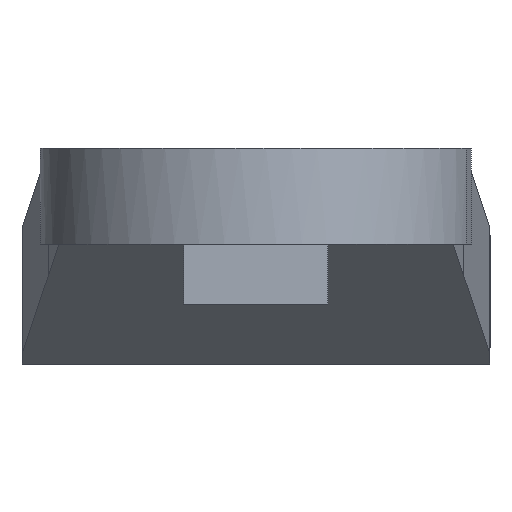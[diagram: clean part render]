
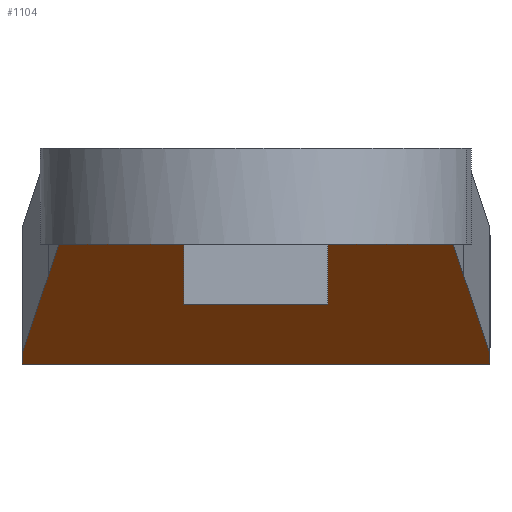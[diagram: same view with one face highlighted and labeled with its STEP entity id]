
A CAD part, left-side view. The second image highlights one B-rep face of the part: STEP entity #1104.
In plain terms, the highlighted planar face has unit normal (-0.494, 0, -0.869).
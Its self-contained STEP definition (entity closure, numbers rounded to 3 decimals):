
#28 = CARTESIAN_POINT ( 'NONE',  ( 13.5, -8.212, 0. ) ) ;
#67 = CARTESIAN_POINT ( 'NONE',  ( 13.5, -8.212, 0. ) ) ;
#81 = CARTESIAN_POINT ( 'NONE',  ( 19.571, -9.379, -3.454 ) ) ;
#99 = ORIENTED_EDGE ( 'NONE', *, *, #169, .T. ) ;
#143 = CARTESIAN_POINT ( 'NONE',  ( 14.237, -8.353, -0.419 ) ) ;
#145 = EDGE_CURVE ( 'NONE', #156, #535, #1023, .T. ) ;
#147 = CARTESIAN_POINT ( 'NONE',  ( 22.025, 9.75, -4.851 ) ) ;
#156 = VERTEX_POINT ( 'NONE', #315 ) ;
#161 = VERTEX_POINT ( 'NONE', #765 ) ;
#167 = CARTESIAN_POINT ( 'NONE',  ( 17.641, -9.008, -2.356 ) ) ;
#169 = EDGE_CURVE ( 'NONE', #161, #874, #406, .T. ) ;
#186 = PLANE ( 'NONE',  #852 ) ;
#225 = VERTEX_POINT ( 'NONE', #333 ) ;
#285 = ORIENTED_EDGE ( 'NONE', *, *, #1127, .T. ) ;
#301 = CARTESIAN_POINT ( 'NONE',  ( 21.763, -9.75, -4.701 ) ) ;
#314 = B_SPLINE_CURVE_WITH_KNOTS ( 'NONE', 3,
 ( #1070, #1156, #436, #799 ),
 .UNSPECIFIED., .F., .F.,
 ( 4, 4 ),
 ( 0., 1. ),
 .UNSPECIFIED. ) ;
#315 = CARTESIAN_POINT ( 'NONE',  ( 13.5, 8.212, 0. ) ) ;
#317 = CARTESIAN_POINT ( 'NONE',  ( 22.025, -9.75, -4.851 ) ) ;
#321 = CARTESIAN_POINT ( 'NONE',  ( 14.237, 8.353, -0.419 ) ) ;
#333 = CARTESIAN_POINT ( 'NONE',  ( 15.712, -8.637, -1.258 ) ) ;
#337 = CARTESIAN_POINT ( 'NONE',  ( 13.5, 8.212, 0. ) ) ;
#363 = ORIENTED_EDGE ( 'NONE', *, *, #537, .T. ) ;
#367 = ORIENTED_EDGE ( 'NONE', *, *, #728, .T. ) ;
#388 = ORIENTED_EDGE ( 'NONE', *, *, #675, .T. ) ;
#403 = B_SPLINE_CURVE_WITH_KNOTS ( 'NONE', 3,
 ( #647, #817, #1103, #932 ),
 .UNSPECIFIED., .F., .F.,
 ( 4, 4 ),
 ( 0., 1. ),
 .UNSPECIFIED. ) ;
#406 = B_SPLINE_CURVE_WITH_KNOTS ( 'NONE', 3,
 ( #1062, #1069, #147, #603 ),
 .UNSPECIFIED., .F., .F.,
 ( 4, 4 ),
 ( 0., 1. ),
 .UNSPECIFIED. ) ;
#436 = CARTESIAN_POINT ( 'NONE',  ( 19.571, 9.379, -3.454 ) ) ;
#440 = CARTESIAN_POINT ( 'NONE',  ( 22.288, 9.75, -5. ) ) ;
#448 = ORIENTED_EDGE ( 'NONE', *, *, #484, .T. ) ;
#449 = DIRECTION ( 'NONE',  ( -0.495, 0., -0.869 ) ) ;
#484 = EDGE_CURVE ( 'NONE', #535, #161, #314, .T. ) ;
#494 = CARTESIAN_POINT ( 'NONE',  ( 22.288, -3.25, -5. ) ) ;
#509 = CARTESIAN_POINT ( 'NONE',  ( 21.5, -9.75, -4.552 ) ) ;
#511 = CARTESIAN_POINT ( 'NONE',  ( 14.975, 8.495, -0.839 ) ) ;
#532 = CARTESIAN_POINT ( 'NONE',  ( 15.712, -8.637, -1.258 ) ) ;
#535 = VERTEX_POINT ( 'NONE', #1078 ) ;
#537 = EDGE_CURVE ( 'NONE', #874, #690, #1135, .T. ) ;
#547 = CARTESIAN_POINT ( 'NONE',  ( 17.894, 15., -2.5 ) ) ;
#603 = CARTESIAN_POINT ( 'NONE',  ( 22.288, 9.75, -5. ) ) ;
#647 = CARTESIAN_POINT ( 'NONE',  ( 13.5, -8.212, 0. ) ) ;
#675 = EDGE_CURVE ( 'NONE', #225, #1187, #1094, .T. ) ;
#690 = VERTEX_POINT ( 'NONE', #751 ) ;
#728 = EDGE_CURVE ( 'NONE', #690, #1154, #950, .T. ) ;
#751 = CARTESIAN_POINT ( 'NONE',  ( 22.288, -9.75, -5. ) ) ;
#756 = B_SPLINE_CURVE_WITH_KNOTS ( 'NONE', 3,
 ( #898, #81, #167, #532 ),
 .UNSPECIFIED., .F., .F.,
 ( 4, 4 ),
 ( 0., 1. ),
 .UNSPECIFIED. ) ;
#765 = CARTESIAN_POINT ( 'NONE',  ( 21.5, 9.75, -4.552 ) ) ;
#799 = CARTESIAN_POINT ( 'NONE',  ( 21.5, 9.75, -4.552 ) ) ;
#817 = CARTESIAN_POINT ( 'NONE',  ( 13.5, -2.737, 0. ) ) ;
#852 = AXIS2_PLACEMENT_3D ( 'NONE', #547, #449, #917 ) ;
#874 = VERTEX_POINT ( 'NONE', #1033 ) ;
#898 = CARTESIAN_POINT ( 'NONE',  ( 21.5, -9.75, -4.552 ) ) ;
#911 = ORIENTED_EDGE ( 'NONE', *, *, #1060, .T. ) ;
#917 = DIRECTION ( 'NONE',  ( -0.869, 0., 0.495 ) ) ;
#932 = CARTESIAN_POINT ( 'NONE',  ( 13.5, 8.212, 0. ) ) ;
#941 = FACE_OUTER_BOUND ( 'NONE', #1015, .T. ) ;
#950 = B_SPLINE_CURVE_WITH_KNOTS ( 'NONE', 3,
 ( #961, #317, #301, #509 ),
 .UNSPECIFIED., .F., .F.,
 ( 4, 4 ),
 ( 0., 1. ),
 .UNSPECIFIED. ) ;
#955 = CARTESIAN_POINT ( 'NONE',  ( 15.712, -8.637, -1.258 ) ) ;
#961 = CARTESIAN_POINT ( 'NONE',  ( 22.288, -9.75, -5. ) ) ;
#965 = CARTESIAN_POINT ( 'NONE',  ( 15.712, 8.637, -1.258 ) ) ;
#1015 = EDGE_LOOP ( 'NONE', ( #99, #363, #367, #911, #388, #285, #1053, #448 ) ) ;
#1023 = B_SPLINE_CURVE_WITH_KNOTS ( 'NONE', 3,
 ( #337, #321, #511, #965 ),
 .UNSPECIFIED., .F., .F.,
 ( 4, 4 ),
 ( 0., 1. ),
 .UNSPECIFIED. ) ;
#1030 = CARTESIAN_POINT ( 'NONE',  ( 14.975, -8.495, -0.839 ) ) ;
#1033 = CARTESIAN_POINT ( 'NONE',  ( 22.288, 9.75, -5. ) ) ;
#1053 = ORIENTED_EDGE ( 'NONE', *, *, #145, .T. ) ;
#1060 = EDGE_CURVE ( 'NONE', #1154, #225, #756, .T. ) ;
#1062 = CARTESIAN_POINT ( 'NONE',  ( 21.5, 9.75, -4.552 ) ) ;
#1069 = CARTESIAN_POINT ( 'NONE',  ( 21.763, 9.75, -4.701 ) ) ;
#1070 = CARTESIAN_POINT ( 'NONE',  ( 15.712, 8.637, -1.258 ) ) ;
#1078 = CARTESIAN_POINT ( 'NONE',  ( 15.712, 8.637, -1.258 ) ) ;
#1094 = B_SPLINE_CURVE_WITH_KNOTS ( 'NONE', 3,
 ( #955, #1030, #143, #28 ),
 .UNSPECIFIED., .F., .F.,
 ( 4, 4 ),
 ( 0., 1. ),
 .UNSPECIFIED. ) ;
#1103 = CARTESIAN_POINT ( 'NONE',  ( 13.5, 2.737, 0. ) ) ;
#1104 = ADVANCED_FACE ( 'NONE', ( #941 ), #186, .T. ) ;
#1127 = EDGE_CURVE ( 'NONE', #1187, #156, #403, .T. ) ;
#1135 = B_SPLINE_CURVE_WITH_KNOTS ( 'NONE', 3,
 ( #440, #1177, #494, #1151 ),
 .UNSPECIFIED., .F., .F.,
 ( 4, 4 ),
 ( 0., 1. ),
 .UNSPECIFIED. ) ;
#1151 = CARTESIAN_POINT ( 'NONE',  ( 22.288, -9.75, -5. ) ) ;
#1154 = VERTEX_POINT ( 'NONE', #1193 ) ;
#1156 = CARTESIAN_POINT ( 'NONE',  ( 17.641, 9.008, -2.356 ) ) ;
#1177 = CARTESIAN_POINT ( 'NONE',  ( 22.288, 3.25, -5. ) ) ;
#1187 = VERTEX_POINT ( 'NONE', #67 ) ;
#1193 = CARTESIAN_POINT ( 'NONE',  ( 21.5, -9.75, -4.552 ) ) ;
